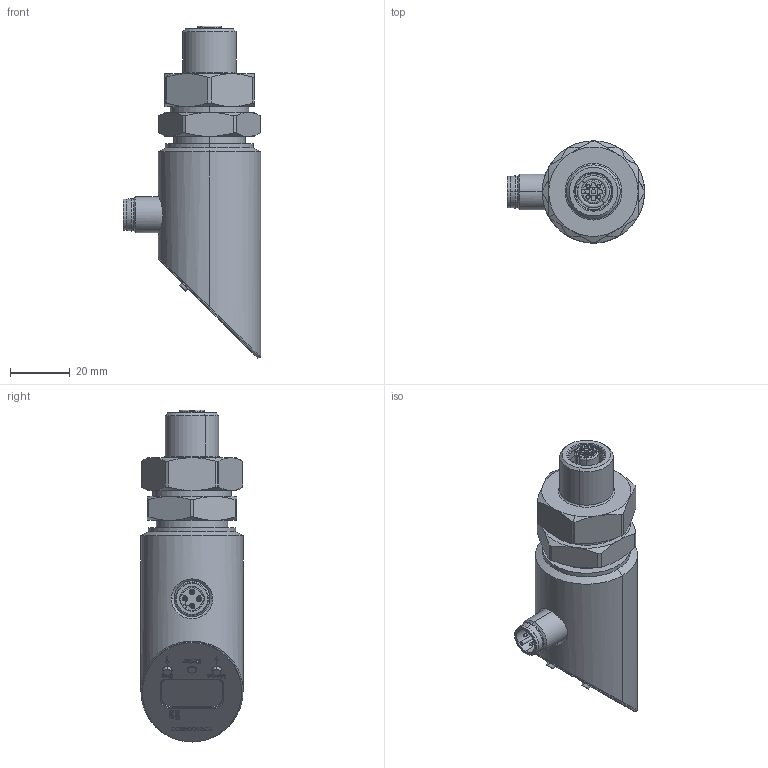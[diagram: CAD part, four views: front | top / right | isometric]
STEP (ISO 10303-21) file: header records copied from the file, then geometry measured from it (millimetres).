
FILE_DESCRIPTION (( 'STEP AP203' ), '1' );
FILE_NAME ('TS-500-X-H1.step', '2012-02-09T20:12:33', ( 'Turck User' ), ( '' ), 'SwSTEP 2.0', 'SolidWorks 2011', '' );
FILE_SCHEMA (( 'CONFIG_CONTROL_DESIGN' ));
Length unit declared in the file: millimetre
Products named in the file (1): TS-500-X-H1
Bounding box: 45.99 x 34.3 x 111.32 mm (x, y, z)
Volume: 63841.6 mm3; surface area: 17908.3 mm2
Topology: 1 solids, 3 shells, 1096 faces, 2922 edges, 1913 vertices
Faces by surface type: plane 495, cylinder 345, bspline 138, cone 74, torus 44
Entity records: 35996 total; most frequent: CARTESIAN_POINT 8848, ORIENTED_EDGE 5828, DIRECTION 5406, EDGE_CURVE 2914, VERTEX_POINT 1913, AXIS2_PLACEMENT_3D 1876, LINE 1654, VECTOR 1654
